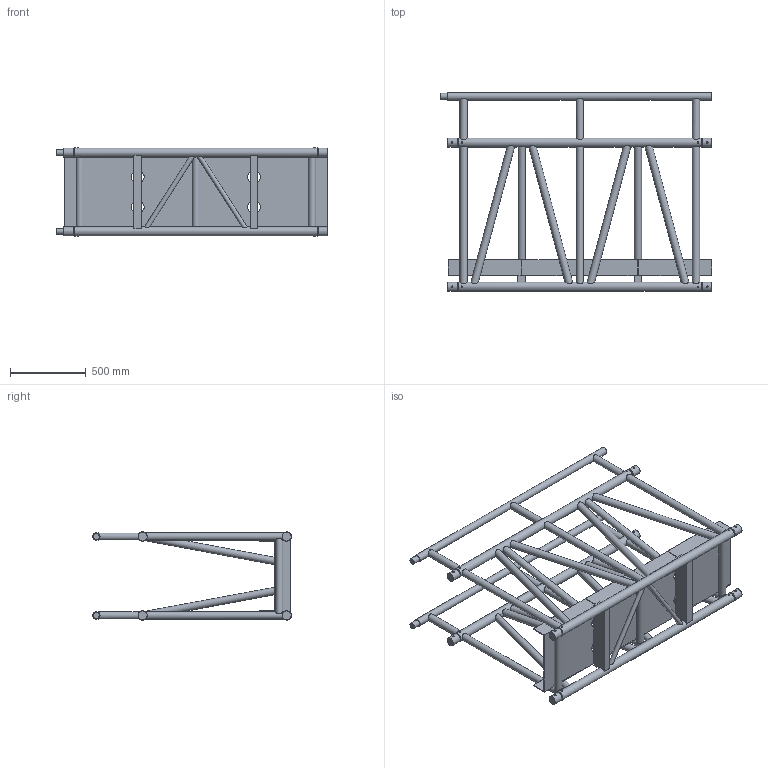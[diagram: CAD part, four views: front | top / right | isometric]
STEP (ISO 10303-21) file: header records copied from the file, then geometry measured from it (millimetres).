
FILE_DESCRIPTION(/* description */ (''),/* implementation_level */ '2;1');
FILE_NAME(/* name */ 'M:\Symbolen_NIEUW\STP\100-er truss\B100CW\B100CW-L174_111110475.stp',/* time_stamp */ '2017-12-06T13:08:32+01:00',/* author */ ('Kees'),/* organization */ (''),/* preprocessor_version */ 'ST-DEVELOPER v16.13',/* originating_system */ 'Autodesk Inventor 2018',/* authorisation */ '');
FILE_SCHEMA (('AUTOMOTIVE_DESIGN { 1 0 10303 214 3 1 1 }'));
Length unit declared in the file: millimetre
Products named in the file (1): 260100967
Bounding box: 1790 x 1309.15 x 580 mm (x, y, z)
Volume: 72424981.2 mm3; surface area: 7334897.6 mm2
Topology: 1 solids, 1 shells, 344 faces, 988 edges, 632 vertices
Faces by surface type: plane 211, cylinder 93, cone 40
Full cylindrical faces by diameter (mm): 10 x8, 30 x2, 40 x2, 48.3 x29, 58.8 x8, 60 x4
Entity records: 14377 total; most frequent: CARTESIAN_POINT 5623, ORIENTED_EDGE 1684, DIRECTION 1650, EDGE_CURVE 842, AXIS2_PLACEMENT_3D 623, VERTEX_POINT 580, EDGE_LOOP 516, LINE 404
